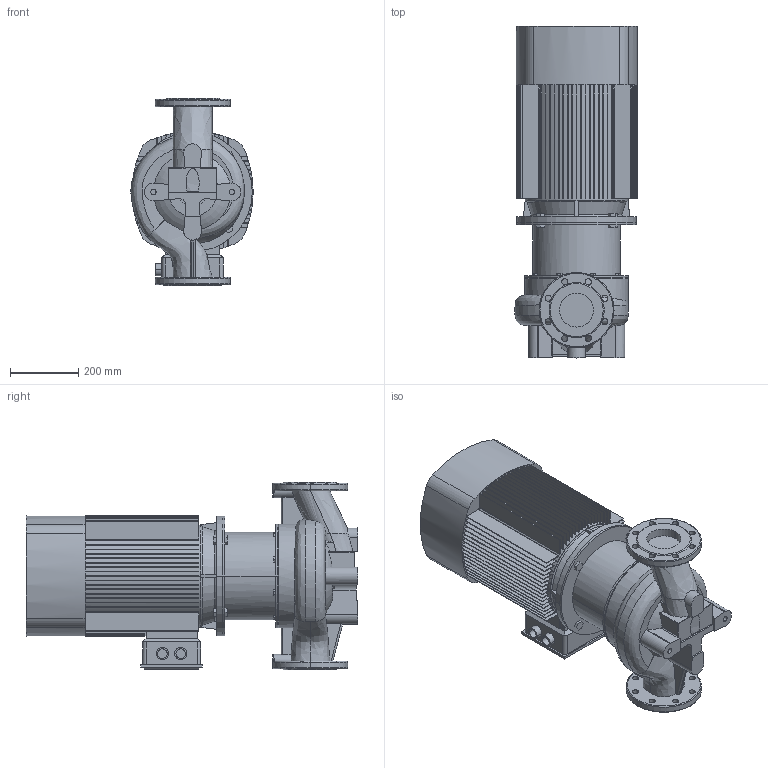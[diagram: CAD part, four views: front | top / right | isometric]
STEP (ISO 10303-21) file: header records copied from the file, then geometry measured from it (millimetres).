
FILE_DESCRIPTION (( 'STEP AP203' ), '1' );
FILE_NAME ('TD100-48G_2.STEP', '2022-05-02T18:58:53', ( '' ), ( '' ), 'SwSTEP 2.0', 'SolidWorks 2019', '' );
FILE_SCHEMA (( 'CONFIG_CONTROL_DESIGN' ));
Length unit declared in the file: millimetre
Products named in the file (4): Fon_100_TD100-48G_2; Pr_ch 100_TD100-48G_2; ED_B5_YE2-180M-2 (22); TD100-48G_2
Assembly tree (3 placements, depth 2):
  TD100-48G_2
    Pr_ch 100_TD100-48G_2
    Fon_100_TD100-48G_2
    ED_B5_YE2-180M-2 (22)
Bounding box: 358.5 x 974 x 550 mm (x, y, z)
Volume: 71220796.1 mm3; surface area: 3532147.4 mm2
Topology: 5 solids, 7 shells, 750 faces, 2112 edges, 1389 vertices
Faces by surface type: plane 515, cylinder 158, torus 30, bspline 28, cone 17, sphere 2
Entity records: 31755 total; most frequent: CARTESIAN_POINT 11686, ORIENTED_EDGE 4216, DIRECTION 4091, EDGE_CURVE 2108, AXIS2_PLACEMENT_3D 1433, VERTEX_POINT 1389, VECTOR 1225, LINE 1225
